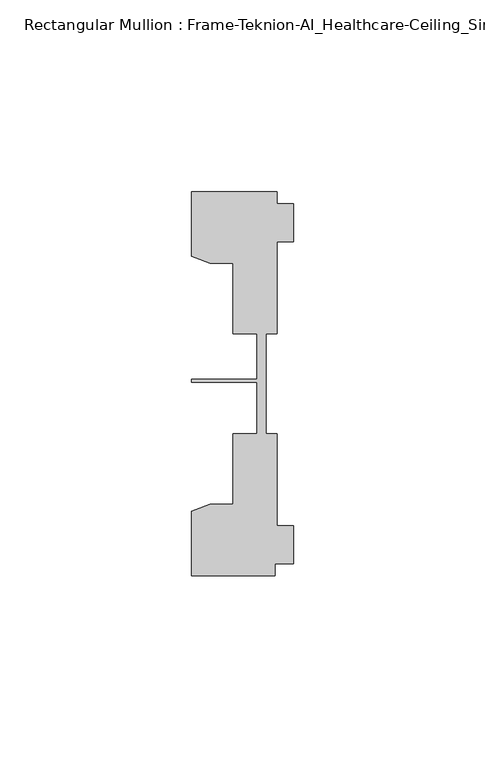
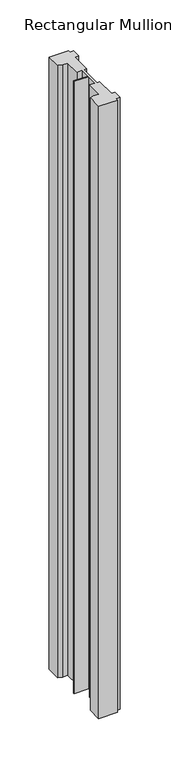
"""IFC4 building model written with IfcOpenShell, lengths in millimetres: member geometry, Rectangular Mullion : Frame-Teknion-AI_Healthcare-Ceiling_Single_Channel."""

from ifc_helpers import new_model, si_unit, frame, origin, place, context, project, spatial, polyline, outline, extrude, source, transform, mapped, element, save


def rectangular_mullion_frame_teknion_ai_healthcare_ceiling_f817d0ac(model_context):
    return source(origin(), model_context, "Body", "SweptSolid", [
        extrude(outline(polyline([(-26.4921999, -34.0201677), (-21.6625199, -32.2880982), (-15.6737764, -32.2880982), (-15.6737764, -13.9110722), (-9.4507761, -13.9110722), (-9.4507761, -0.4036528), (-26.4921999, -0.4036528), (-26.4921999, 0.4036528), (-9.4507761, 0.4036528), (-9.4507761, 12.2509301), (-15.6737764, 12.2509301), (-15.6737764, 30.6279561), (-21.6625199, 30.6279561), (-26.4921999, 32.3600207), (-26.4921999, 49.1699293), (-4.2672007, 49.1699293), (-4.2672007, 46.1219322), (0.0, 46.1219322), (0.0, 36.1219249), (-4.2672007, 36.1219249), (-4.2672007, 12.2509301), (-7.1647766, 12.2509301), (-7.1647766, -0.0814804), (-7.1647766, -13.9110722), (-4.2672007, -13.9110722), (-4.2672007, -37.7820716), (0.0, -37.7820716), (0.0, -47.782071), (-4.7752002, -47.782071), (-4.7752002, -50.8315128), (-26.4921999, -50.8315128), (-26.4921999, -34.0201677)])), frame((0.0, 0.0, -755.0982003), z_axis=(0.0, 0.0, 1.0), x_axis=(1.0, 0.0, 0.0)), (0.0, 0.0, 1.0), 755.0982003),
    ])


if __name__ == "__main__":
    model = new_model("IFC4")
    model_context = context("Model", 3, world=origin())
    ifc_project = project(units=[si_unit("LENGTHUNIT", "METRE", prefix="MILLI")], contexts=[model_context])
    site = spatial("IfcSite", under=ifc_project)
    building = spatial("IfcBuilding", under=site)
    placement = place(None, origin())
    rectangular_mullion_frame_teknion_ai_healthcare_ceiling_shape = rectangular_mullion_frame_teknion_ai_healthcare_ceiling_f817d0ac(model_context)
    element("IfcMember", 1, ObjectType="Rectangular Mullion : Frame-Teknion-AI_Healthcare-Ceiling_Single_Channel", at=placement, inside=building, context=model_context, shape_type="MappedRepresentation", body=[
        mapped(rectangular_mullion_frame_teknion_ai_healthcare_ceiling_shape, transform((0.0, 0.0, 0.0), x_axis=(1.0, 0.0, 0.0), y_axis=(0.0, 1.0, 0.0), z_axis=(0.0, 0.0, 1.0))),
    ])
    save(model, "model.ifc")
